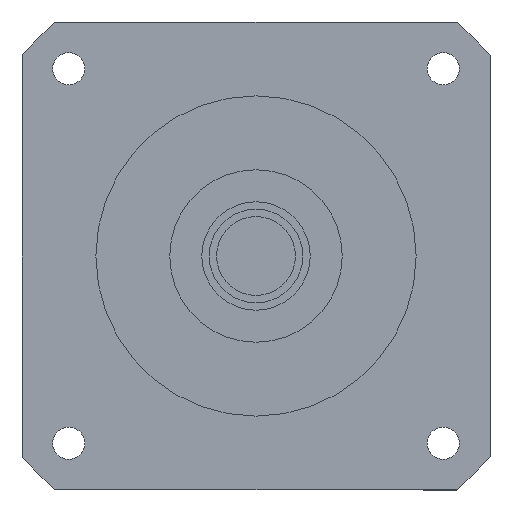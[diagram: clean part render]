
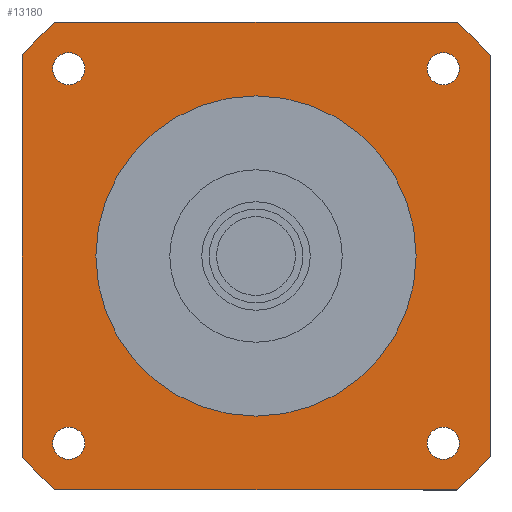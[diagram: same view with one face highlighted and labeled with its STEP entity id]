
A CAD part, left-side view. The second image highlights one B-rep face of the part: STEP entity #13180.
In plain terms, the highlighted planar face has unit normal (-1, 0, 0) as drawn and (0, 0, -1) by its records, which use the part's own axes.
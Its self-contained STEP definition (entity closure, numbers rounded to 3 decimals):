
#10510=CARTESIAN_POINT('',(81.24,95.,-84.7));
#10520=VERTEX_POINT('',#10510);
#10570=CARTESIAN_POINT('',(0.,0.,
-84.7));
#10580=DIRECTION('',(0.,0.,-1.));
#10590=DIRECTION('',(1.,0.,0.));
#10600=AXIS2_PLACEMENT_3D('',#10570,#10580,#10590);
#10610=CIRCLE('',#10600,125.);
#10620=CARTESIAN_POINT('',(95.,81.24,-84.7));
#10630=VERTEX_POINT('',#10620);
#10640=EDGE_CURVE('',#10520,#10630,#10610,.T.);
#11590=CARTESIAN_POINT('',(65.,0.,-84.7));
#11600=VERTEX_POINT('',#11590);
#11630=CARTESIAN_POINT('',(0.,0.,
-84.7));
#11640=DIRECTION('',(0.,0.,1.));
#11650=DIRECTION('',(0.,1.,0.));
#11660=AXIS2_PLACEMENT_3D('',#11630,#11640,#11650);
#11670=CIRCLE('',#11660,65.);
#11680=CARTESIAN_POINT('',(0.,65.,-84.7));
#11690=VERTEX_POINT('',#11680);
#11700=EDGE_CURVE('',#11600,#11690,#11670,.T.);
#11720=CARTESIAN_POINT('',(-65.,0.,-84.7));
#11730=VERTEX_POINT('',#11720);
#11740=EDGE_CURVE('',#11690,#11730,#11670,.T.);
#11870=CARTESIAN_POINT('',(95.,95.,-84.7));
#11880=DIRECTION('',(0.,0.,-1.));
#11890=DIRECTION('',(1.,0.,0.));
#11900=AXIS2_PLACEMENT_3D('',#11870,#11880,#11890);
#11910=PLANE('',#11900);
#11920=CARTESIAN_POINT('',(-76.014,76.014,-84.7));
#11930=DIRECTION('',(0.,0.,-1.));
#11940=DIRECTION('',(-1.,0.,0.));
#11950=AXIS2_PLACEMENT_3D('',#11920,#11930,#11940);
#11960=CIRCLE('',#11950,6.5);
#11970=CARTESIAN_POINT('',(-82.514,76.014,-84.7));
#11980=VERTEX_POINT('',#11970);
#11990=CARTESIAN_POINT('',(-69.514,76.014,-84.7));
#12000=VERTEX_POINT('',#11990);
#12010=EDGE_CURVE('',#11980,#12000,#11960,.T.);
#12020=ORIENTED_EDGE('',*,*,#12010,.F.);
#12030=EDGE_CURVE('',#12000,#11980,#11960,.T.);
#12040=ORIENTED_EDGE('',*,*,#12030,.F.);
#12050=EDGE_LOOP('',(#12040,#12020));
#12060=FACE_BOUND('',#12050,.T.);
#12070=CARTESIAN_POINT('',(76.014,76.014,-84.7));
#12080=DIRECTION('',(0.,0.,-1.));
#12090=DIRECTION('',(0.,1.,0.));
#12100=AXIS2_PLACEMENT_3D('',#12070,#12080,#12090);
#12110=CIRCLE('',#12100,6.5);
#12120=CARTESIAN_POINT('',(76.014,82.514,-84.7));
#12130=VERTEX_POINT('',#12120);
#12140=CARTESIAN_POINT('',(76.014,69.514,-84.7));
#12150=VERTEX_POINT('',#12140);
#12160=EDGE_CURVE('',#12130,#12150,#12110,.T.);
#12170=ORIENTED_EDGE('',*,*,#12160,.F.);
#12180=EDGE_CURVE('',#12150,#12130,#12110,.T.);
#12190=ORIENTED_EDGE('',*,*,#12180,.F.);
#12200=EDGE_LOOP('',(#12190,#12170));
#12210=FACE_BOUND('',#12200,.T.);
#12220=EDGE_CURVE('',#11730,#11600,#11670,.T.);
#12230=ORIENTED_EDGE('',*,*,#12220,.T.);
#12240=ORIENTED_EDGE('',*,*,#11740,.T.);
#12250=ORIENTED_EDGE('',*,*,#11700,.T.);
#12260=EDGE_LOOP('',(#12250,#12240,#12230));
#12270=FACE_BOUND('',#12260,.T.);
#12280=CARTESIAN_POINT('',(76.014,-76.014,-84.7));
#12290=DIRECTION('',(0.,0.,-1.));
#12300=DIRECTION('',(1.,0.,0.));
#12310=AXIS2_PLACEMENT_3D('',#12280,#12290,#12300);
#12320=CIRCLE('',#12310,6.5);
#12330=CARTESIAN_POINT('',(82.514,-76.014,-84.7));
#12340=VERTEX_POINT('',#12330);
#12350=CARTESIAN_POINT('',(69.514,-76.014,-84.7));
#12360=VERTEX_POINT('',#12350);
#12370=EDGE_CURVE('',#12340,#12360,#12320,.T.);
#12380=ORIENTED_EDGE('',*,*,#12370,.F.);
#12390=EDGE_CURVE('',#12360,#12340,#12320,.T.);
#12400=ORIENTED_EDGE('',*,*,#12390,.F.);
#12410=EDGE_LOOP('',(#12400,#12380));
#12420=FACE_BOUND('',#12410,.T.);
#12430=CARTESIAN_POINT('',(-76.014,-76.014,-84.7));
#12440=DIRECTION('',(0.,0.,-1.));
#12450=DIRECTION('',(0.,-1.,0.));
#12460=AXIS2_PLACEMENT_3D('',#12430,#12440,#12450);
#12470=CIRCLE('',#12460,6.5);
#12480=CARTESIAN_POINT('',(-76.014,-82.514,-84.7));
#12490=VERTEX_POINT('',#12480);
#12500=CARTESIAN_POINT('',(-76.014,-69.514,-84.7));
#12510=VERTEX_POINT('',#12500);
#12520=EDGE_CURVE('',#12490,#12510,#12470,.T.);
#12530=ORIENTED_EDGE('',*,*,#12520,.F.);
#12540=EDGE_CURVE('',#12510,#12490,#12470,.T.);
#12550=ORIENTED_EDGE('',*,*,#12540,.F.);
#12560=EDGE_LOOP('',(#12550,#12530));
#12570=FACE_BOUND('',#12560,.T.);
#12580=CARTESIAN_POINT('',(-95.,95.,-84.7));
#12590=DIRECTION('',(1.,0.,0.));
#12600=VECTOR('',#12590,1000.);
#12610=LINE('',#12580,#12600);
#12620=CARTESIAN_POINT('',(-81.24,95.,-84.7));
#12630=VERTEX_POINT('',#12620);
#12640=EDGE_CURVE('',#12630,#10520,#12610,.T.);
#12650=ORIENTED_EDGE('',*,*,#12640,.T.);
#12660=CARTESIAN_POINT('',(0.,0.,
-84.7));
#12670=DIRECTION('',(0.,0.,-1.));
#12680=DIRECTION('',(1.,0.,0.));
#12690=AXIS2_PLACEMENT_3D('',#12660,#12670,#12680);
#12700=CIRCLE('',#12690,125.);
#12710=CARTESIAN_POINT('',(-95.,81.24,-84.7));
#12720=VERTEX_POINT('',#12710);
#12730=EDGE_CURVE('',#12720,#12630,#12700,.T.);
#12740=ORIENTED_EDGE('',*,*,#12730,.T.);
#12750=CARTESIAN_POINT('',(-95.,-95.,-84.7));
#12760=DIRECTION('',(0.,1.,0.));
#12770=VECTOR('',#12760,1000.);
#12780=LINE('',#12750,#12770);
#12790=CARTESIAN_POINT('',(-95.,-81.24,-84.7));
#12800=VERTEX_POINT('',#12790);
#12810=EDGE_CURVE('',#12800,#12720,#12780,.T.);
#12820=ORIENTED_EDGE('',*,*,#12810,.T.);
#12830=CARTESIAN_POINT('',(0.,0.,
-84.7));
#12840=DIRECTION('',(0.,0.,-1.));
#12850=DIRECTION('',(1.,0.,0.));
#12860=AXIS2_PLACEMENT_3D('',#12830,#12840,#12850);
#12870=CIRCLE('',#12860,125.);
#12880=CARTESIAN_POINT('',(-81.24,-95.,-84.7));
#12890=VERTEX_POINT('',#12880);
#12900=EDGE_CURVE('',#12890,#12800,#12870,.T.);
#12910=ORIENTED_EDGE('',*,*,#12900,.T.);
#12920=CARTESIAN_POINT('',(95.,-95.,-84.7));
#12930=DIRECTION('',(-1.,0.,0.));
#12940=VECTOR('',#12930,1000.);
#12950=LINE('',#12920,#12940);
#12960=CARTESIAN_POINT('',(81.24,-95.,-84.7));
#12970=VERTEX_POINT('',#12960);
#12980=EDGE_CURVE('',#12970,#12890,#12950,.T.);
#12990=ORIENTED_EDGE('',*,*,#12980,.T.);
#13000=CARTESIAN_POINT('',(0.,0.,
-84.7));
#13010=DIRECTION('',(0.,0.,-1.));
#13020=DIRECTION('',(1.,0.,0.));
#13030=AXIS2_PLACEMENT_3D('',#13000,#13010,#13020);
#13040=CIRCLE('',#13030,125.);
#13050=CARTESIAN_POINT('',(95.,-81.24,-84.7));
#13060=VERTEX_POINT('',#13050);
#13070=EDGE_CURVE('',#13060,#12970,#13040,.T.);
#13080=ORIENTED_EDGE('',*,*,#13070,.T.);
#13090=CARTESIAN_POINT('',(95.,95.,-84.7));
#13100=DIRECTION('',(0.,-1.,0.));
#13110=VECTOR('',#13100,1000.);
#13120=LINE('',#13090,#13110);
#13130=EDGE_CURVE('',#10630,#13060,#13120,.T.);
#13140=ORIENTED_EDGE('',*,*,#13130,.T.);
#13150=ORIENTED_EDGE('',*,*,#10640,.T.);
#13160=EDGE_LOOP('',(#13150,#13140,#13080,#12990,#12910,#12820,#12740,
#12650));
#13170=FACE_OUTER_BOUND('',#13160,.T.);
#13180=ADVANCED_FACE('',(#12060,#12210,#12270,#12420,#12570,#13170),
#11910,.T.);
